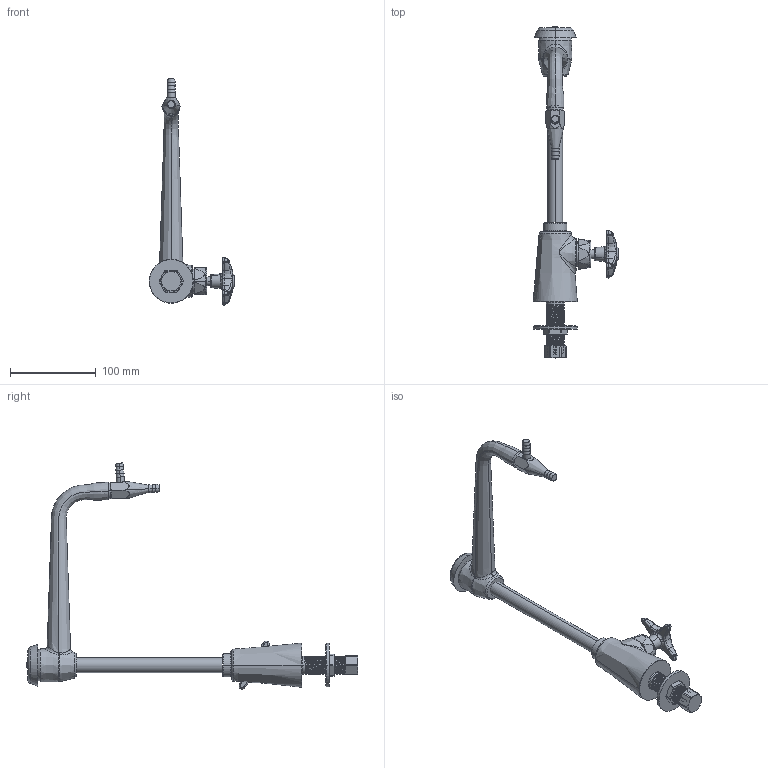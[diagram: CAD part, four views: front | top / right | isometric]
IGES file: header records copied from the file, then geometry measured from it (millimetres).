
Start section:  PTC IGES file: LWS1-A32-H.igs
Global section: file name: LWS1-A32-H.igs; native system: Creo Parametric by PTC Inc.; preprocessor: 2017260; author: usch_engrender; organization: Unknown; date: 20190827.141629; units: inch
Bounding box: 99.86 x 387.27 x 263.84 mm (x, y, z)
Surface area: 77961 mm2 (no closed solid volume)
Topology: 0 solids, 24 shells, 395 faces, 972 edges, 600 vertices
Faces by surface type: bspline 201, revolution 194
